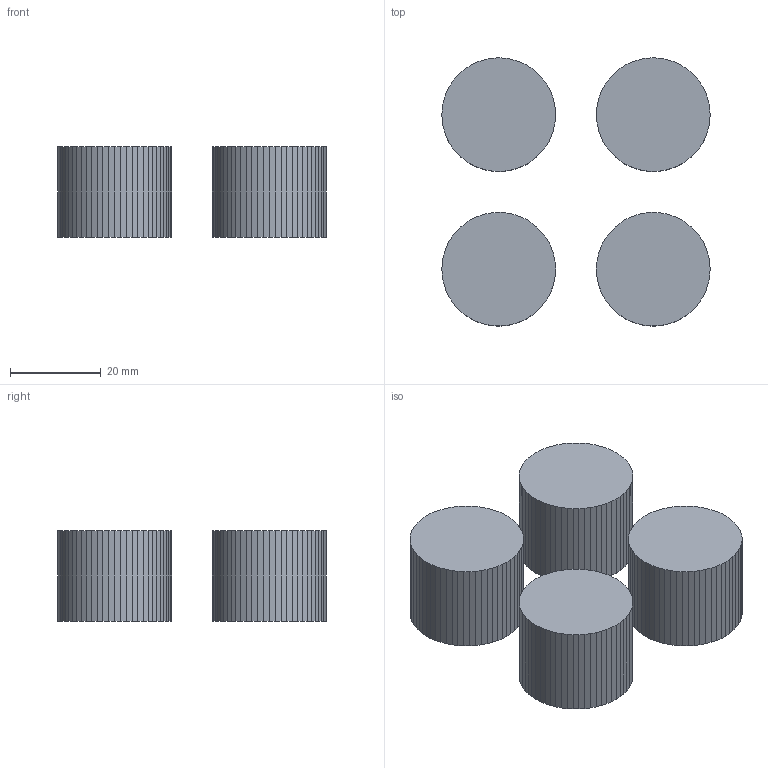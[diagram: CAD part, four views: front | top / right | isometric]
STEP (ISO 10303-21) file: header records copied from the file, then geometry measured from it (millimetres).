
FILE_DESCRIPTION(('Open CASCADE Model'),'2;1');
FILE_NAME('Open CASCADE Shape Model','2026-08-07T13:51:23',('Author'),( 'Open CASCADE'),'Open CASCADE STEP processor 7.9','Open CASCADE 7.9' ,'Unknown');
FILE_SCHEMA(('AUTOMOTIVE_DESIGN { 1 0 10303 214 1 1 1 1 }'));
Length unit declared in the file: millimetre
Products named in the file (1): 電磁鐵x4(外購)
Bounding box: 59 x 59 x 20 mm (x, y, z)
Volume: 39198.1 mm3; surface area: 10200.1 mm2
Topology: 4 solids, 4 shells, 248 faces, 720 edges, 480 vertices
Faces by surface type: plane 248
Entity records: 17368 total; most frequent: CARTESIAN_POINT 2889, DIRECTION 2658, LINE 2160, VECTOR 2160, ORIENTED_EDGE 1440, PCURVE 1440, DEFINITIONAL_REPRESENTATION 1440, EDGE_CURVE 720
